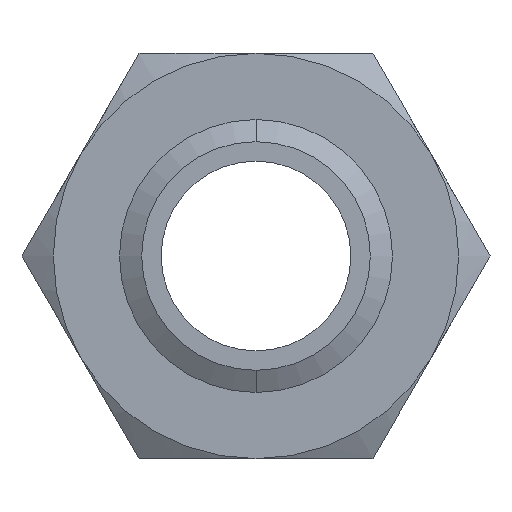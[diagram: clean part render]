
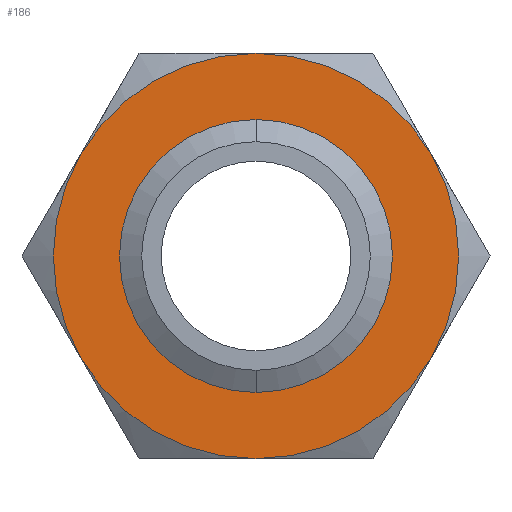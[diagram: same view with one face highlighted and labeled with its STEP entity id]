
A CAD part, front view. The second image highlights one B-rep face of the part: STEP entity #186.
In plain terms, the highlighted planar face has unit normal (0, -1, 0).
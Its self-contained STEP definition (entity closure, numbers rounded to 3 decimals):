
#174 = VERTEX_POINT ( 'NONE', #842 ) ;
#181 = VERTEX_POINT ( 'NONE', #902 ) ;
#182 = VERTEX_POINT ( 'NONE', #901 ) ;
#183 = EDGE_LOOP ( 'NONE', ( #188, #193, #191, #196, #192, #275 ) ) ;
#186 = ADVANCED_FACE ( 'NONE', ( #899, #898 ), #897, .F. ) ;
#187 = EDGE_CURVE ( 'NONE', #182, #174, #891, .T. ) ;
#188 = ORIENTED_EDGE ( 'NONE', *, *, #187, .F. ) ;
#191 = ORIENTED_EDGE ( 'NONE', *, *, #197, .F. ) ;
#192 = ORIENTED_EDGE ( 'NONE', *, *, #194, .F. ) ;
#193 = ORIENTED_EDGE ( 'NONE', *, *, #274, .F. ) ;
#194 = EDGE_CURVE ( 'NONE', #318, #199, #941, .T. ) ;
#195 = VERTEX_POINT ( 'NONE', #936 ) ;
#196 = ORIENTED_EDGE ( 'NONE', *, *, #198, .F. ) ;
#197 = EDGE_CURVE ( 'NONE', #181, #195, #935, .T. ) ;
#198 = EDGE_CURVE ( 'NONE', #199, #181, #929, .T. ) ;
#199 = VERTEX_POINT ( 'NONE', #930 ) ;
#274 = EDGE_CURVE ( 'NONE', #195, #182, #1121, .T. ) ;
#275 = ORIENTED_EDGE ( 'NONE', *, *, #2165, .F. ) ;
#318 = VERTEX_POINT ( 'NONE', #1182 ) ;
#341 = EDGE_CURVE ( 'NONE', #342, #343, #1211, .T. ) ;
#342 = VERTEX_POINT ( 'NONE', #1201 ) ;
#343 = VERTEX_POINT ( 'NONE', #1200 ) ;
#840 = EDGE_LOOP ( 'NONE', ( #2155, #841 ) ) ;
#841 = ORIENTED_EDGE ( 'NONE', *, *, #1381, .F. ) ;
#842 = CARTESIAN_POINT ( 'NONE',  ( 41.136, 0., 23.75 ) ) ;
#887 = DIRECTION ( 'NONE',  ( 0., 0., 1. ) ) ;
#888 = DIRECTION ( 'NONE',  ( 0., 1., 0. ) ) ;
#889 = CARTESIAN_POINT ( 'NONE',  ( 0., 0., 0. ) ) ;
#890 = AXIS2_PLACEMENT_3D ( 'NONE', #889, #888, #887 ) ;
#891 = CIRCLE ( 'NONE', #890, 47.5 ) ;
#893 = DIRECTION ( 'NONE',  ( 0., 0., 1. ) ) ;
#894 = DIRECTION ( 'NONE',  ( 0., 1., 0. ) ) ;
#895 = CARTESIAN_POINT ( 'NONE',  ( 27.424, 0., -47.5 ) ) ;
#896 = AXIS2_PLACEMENT_3D ( 'NONE', #895, #894, #893 ) ;
#897 = PLANE ( 'NONE',  #896 ) ;
#898 = FACE_BOUND ( 'NONE', #840, .T. ) ;
#899 = FACE_OUTER_BOUND ( 'NONE', #183, .T. ) ;
#901 = CARTESIAN_POINT ( 'NONE',  ( 0., 0., 47.5 ) ) ;
#902 = CARTESIAN_POINT ( 'NONE',  ( -41.136, 0., -23.75 ) ) ;
#925 = DIRECTION ( 'NONE',  ( 0., 0., 1. ) ) ;
#926 = DIRECTION ( 'NONE',  ( 0., 1., 0. ) ) ;
#927 = CARTESIAN_POINT ( 'NONE',  ( 0., 0., 0. ) ) ;
#928 = AXIS2_PLACEMENT_3D ( 'NONE', #927, #926, #925 ) ;
#929 = CIRCLE ( 'NONE', #928, 47.5 ) ;
#930 = CARTESIAN_POINT ( 'NONE',  ( 0., 0., -47.5 ) ) ;
#931 = DIRECTION ( 'NONE',  ( 0., 0., 1. ) ) ;
#932 = DIRECTION ( 'NONE',  ( 0., 1., 0. ) ) ;
#933 = CARTESIAN_POINT ( 'NONE',  ( 0., 0., 0. ) ) ;
#934 = AXIS2_PLACEMENT_3D ( 'NONE', #933, #932, #931 ) ;
#935 = CIRCLE ( 'NONE', #934, 47.5 ) ;
#936 = CARTESIAN_POINT ( 'NONE',  ( -41.136, 0., 23.75 ) ) ;
#937 = DIRECTION ( 'NONE',  ( 0., 0., 1. ) ) ;
#938 = DIRECTION ( 'NONE',  ( 0., 1., 0. ) ) ;
#939 = CARTESIAN_POINT ( 'NONE',  ( 0., 0., 0. ) ) ;
#940 = AXIS2_PLACEMENT_3D ( 'NONE', #939, #938, #937 ) ;
#941 = CIRCLE ( 'NONE', #940, 47.5 ) ;
#1117 = DIRECTION ( 'NONE',  ( 0., 0., 1. ) ) ;
#1118 = DIRECTION ( 'NONE',  ( 0., 1., 0. ) ) ;
#1119 = CARTESIAN_POINT ( 'NONE',  ( 0., 0., 0. ) ) ;
#1120 = AXIS2_PLACEMENT_3D ( 'NONE', #1119, #1118, #1117 ) ;
#1121 = CIRCLE ( 'NONE', #1120, 47.5 ) ;
#1182 = CARTESIAN_POINT ( 'NONE',  ( 41.136, 0., -23.75 ) ) ;
#1200 = CARTESIAN_POINT ( 'NONE',  ( 0., 0., 26.804 ) ) ;
#1201 = CARTESIAN_POINT ( 'NONE',  ( 0., 0., -26.804 ) ) ;
#1202 = DIRECTION ( 'NONE',  ( 0., 0., -1. ) ) ;
#1203 = DIRECTION ( 'NONE',  ( 0., -1., 0. ) ) ;
#1204 = CARTESIAN_POINT ( 'NONE',  ( 0., 0., 0. ) ) ;
#1205 = AXIS2_PLACEMENT_3D ( 'NONE', #1204, #1203, #1202 ) ;
#1211 = CIRCLE ( 'NONE', #1205, 26.804 ) ;
#1381 = EDGE_CURVE ( 'NONE', #343, #342, #1578, .T. ) ;
#1572 = CARTESIAN_POINT ( 'NONE',  ( 0., 0., 0. ) ) ;
#1573 = AXIS2_PLACEMENT_3D ( 'NONE', #1572, #1639, #1638 ) ;
#1578 = CIRCLE ( 'NONE', #1573, 26.804 ) ;
#1612 = DIRECTION ( 'NONE',  ( 0., 0., 1. ) ) ;
#1613 = DIRECTION ( 'NONE',  ( 0., 1., 0. ) ) ;
#1614 = CARTESIAN_POINT ( 'NONE',  ( 0., 0., 0. ) ) ;
#1615 = AXIS2_PLACEMENT_3D ( 'NONE', #1614, #1613, #1612 ) ;
#1616 = CIRCLE ( 'NONE', #1615, 47.5 ) ;
#1638 = DIRECTION ( 'NONE',  ( 0., 0., -1. ) ) ;
#1639 = DIRECTION ( 'NONE',  ( 0., -1., 0. ) ) ;
#2155 = ORIENTED_EDGE ( 'NONE', *, *, #341, .F. ) ;
#2165 = EDGE_CURVE ( 'NONE', #174, #318, #1616, .T. ) ;
